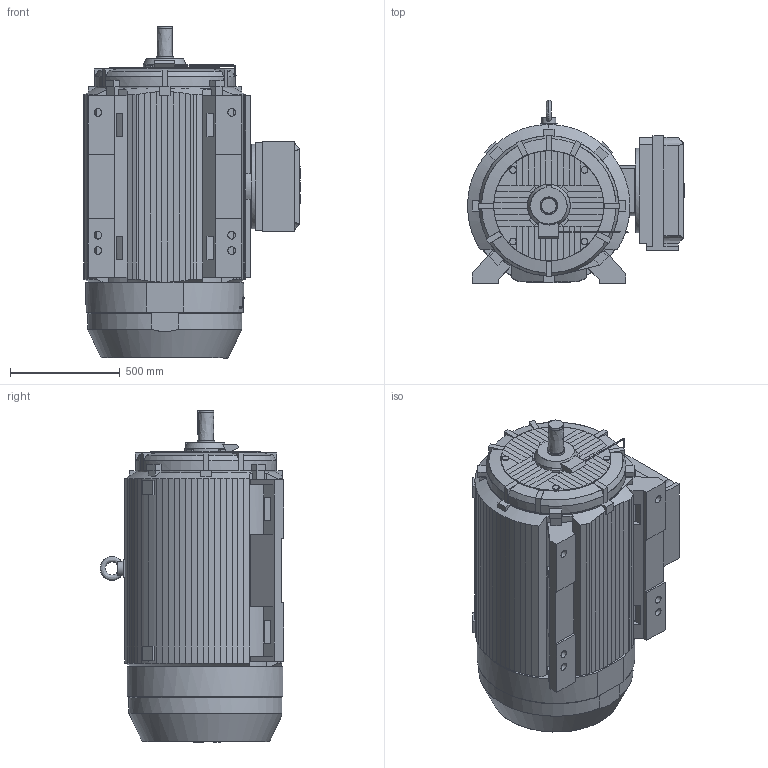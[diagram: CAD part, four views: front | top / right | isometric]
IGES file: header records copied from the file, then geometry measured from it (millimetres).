
Start section: Maximum GME point tolerance:  0.01 Minimum GME point tolerance:  0.01
Global section: file name: M3BP355ML2B3oik750_IGES.igs; native system: I-DEAS 9; preprocessor: IGES 5.3; author: NONE; organization: NONE; date: 020723.153439; units: millimetre
Bounding box: 987.76 x 837.99 x 1514 mm (x, y, z)
Surface area: 5434480.3 mm2 (no closed solid volume)
Topology: 0 solids, 0 shells, 494 faces, 2917 edges, 2890 vertices
Faces by surface type: bspline 494
